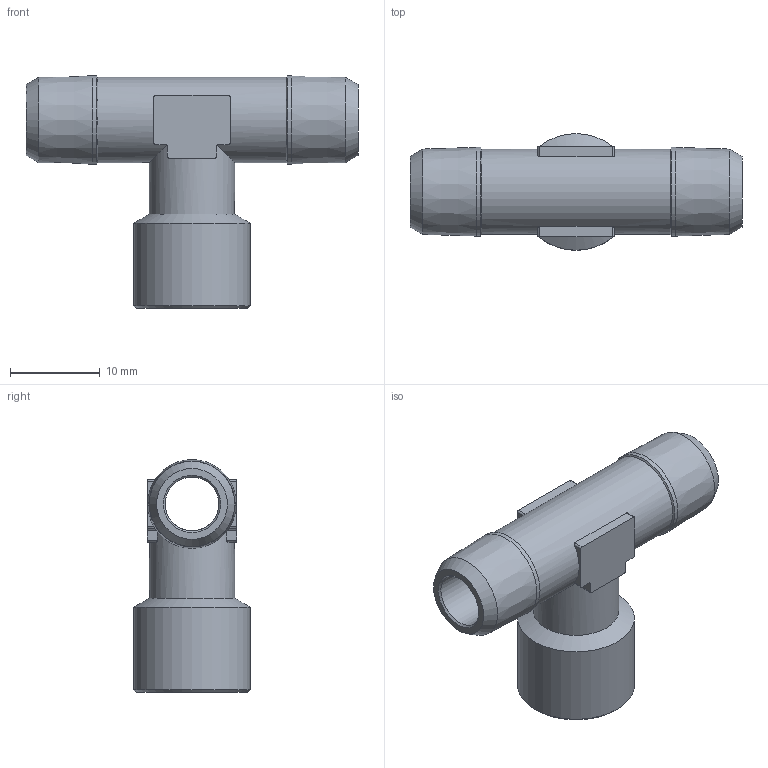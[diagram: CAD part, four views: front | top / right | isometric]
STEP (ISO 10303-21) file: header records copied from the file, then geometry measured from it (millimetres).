
FILE_DESCRIPTION(/* description */ (''),/* implementation_level */ '2;1');
FILE_NAME(/* name */ '40202_117_G1-8_R1-8_29.09.16',/* time_stamp */ '2016-09-29T12:07:54+02:00',/* author */ (''),/* organization */ (''),/* preprocessor_version */ 'ST-DEVELOPER v16.5',/* originating_system */ 'HiCAD 2016 2101.0 Build 254',/* authorisation */ '');
FILE_SCHEMA (('AUTOMOTIVE_DESIGN { 1 0 10303 214 1 1 1 1 }'));
Length unit declared in the file: millimetre
Products named in the file (2): Root; 40202
Assembly tree (1 placements, depth 2):
  Root
    40202
Bounding box: 37 x 13 x 25.94 mm (x, y, z)
Volume: 2681.8 mm3; surface area: 2957.7 mm2
Topology: 1 solids, 1 shells, 57 faces, 156 edges, 100 vertices
Faces by surface type: cylinder 24, plane 21, cone 12
Full cylindrical faces by diameter (mm): 6 x2, 8.566 x1, 9.5 x2, 9.884 x2, 13 x1
Entity records: 5668 total; most frequent: CARTESIAN_POINT 3081, DIRECTION 272, PRESENTATION_STYLE_ASSIGNMENT 253, COLOUR_RGB 253, DRAUGHTING_PRE_DEFINED_CURVE_FONT 252, CURVE_STYLE 252, OVER_RIDING_STYLED_ITEM 252, ORIENTED_EDGE 252
